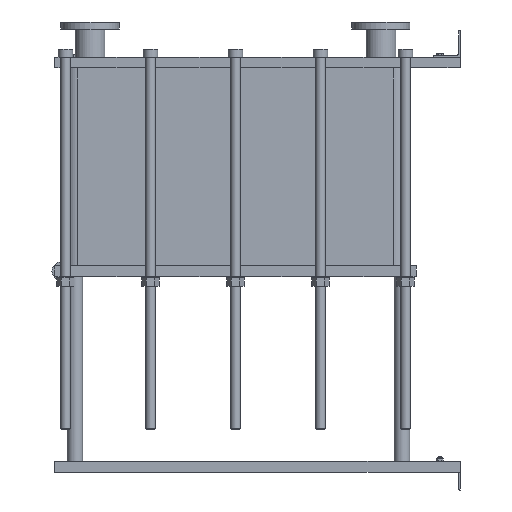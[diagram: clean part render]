
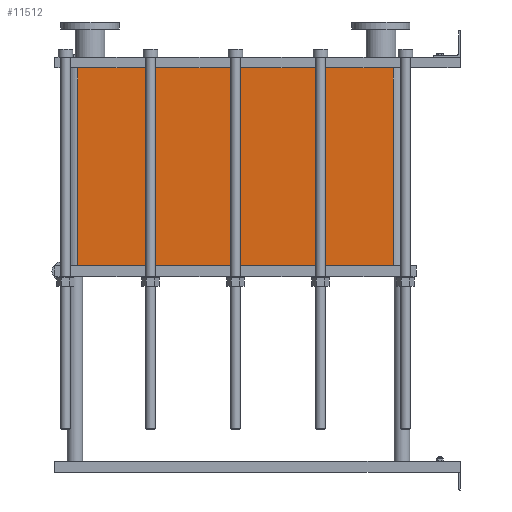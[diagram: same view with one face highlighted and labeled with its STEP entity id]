
A CAD part, left-side view. The second image highlights one B-rep face of the part: STEP entity #11512.
In plain terms, the highlighted planar face has unit normal (-1, 0, 0).
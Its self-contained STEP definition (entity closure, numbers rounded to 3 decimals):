
#1129=LINE('',#23232,#2102);
#1130=LINE('',#23236,#2103);
#1131=LINE('',#23238,#2104);
#1132=LINE('',#23239,#2105);
#2102=VECTOR('',#15887,10.);
#2103=VECTOR('',#15892,10.);
#2104=VECTOR('',#15893,10.);
#2105=VECTOR('',#15894,10.);
#3267=FACE_OUTER_BOUND('',#4093,.T.);
#4093=EDGE_LOOP('',(#10103,#10104,#10105,#10106));
#5642=VERTEX_POINT('',#23229);
#5643=VERTEX_POINT('',#23231);
#5644=VERTEX_POINT('',#23235);
#5645=VERTEX_POINT('',#23237);
#7159=EDGE_CURVE('',#5643,#5642,#1129,.T.);
#7161=EDGE_CURVE('',#5642,#5644,#1130,.T.);
#7162=EDGE_CURVE('',#5645,#5644,#1131,.T.);
#7163=EDGE_CURVE('',#5645,#5643,#1132,.T.);
#10103=ORIENTED_EDGE('',*,*,#7161,.T.);
#10104=ORIENTED_EDGE('',*,*,#7162,.F.);
#10105=ORIENTED_EDGE('',*,*,#7163,.T.);
#10106=ORIENTED_EDGE('',*,*,#7159,.T.);
#10857=PLANE('',#12751);
#11512=ADVANCED_FACE('',(#3267),#10857,.T.);
#12751=AXIS2_PLACEMENT_3D('',#23234,#15890,#15891);
#15887=DIRECTION('',(0.,0.,-1.));
#15890=DIRECTION('center_axis',(-1.,0.,0.));
#15891=DIRECTION('ref_axis',(0.,1.,0.));
#15892=DIRECTION('',(0.,-1.,0.));
#15893=DIRECTION('',(0.,0.,-1.));
#15894=DIRECTION('',(0.,1.,0.));
#23229=CARTESIAN_POINT('',(-200.,1414.,-731.4));
#23231=CARTESIAN_POINT('',(-200.,1414.,0.));
#23232=CARTESIAN_POINT('',(-200.,1414.,0.));
#23234=CARTESIAN_POINT('Origin',(-200.,248.,0.));
#23235=CARTESIAN_POINT('',(-200.,248.,-731.4));
#23236=CARTESIAN_POINT('',(-200.,539.5,-731.4));
#23237=CARTESIAN_POINT('',(-200.,248.,0.));
#23238=CARTESIAN_POINT('',(-200.,248.,0.));
#23239=CARTESIAN_POINT('',(-200.,248.,0.));
